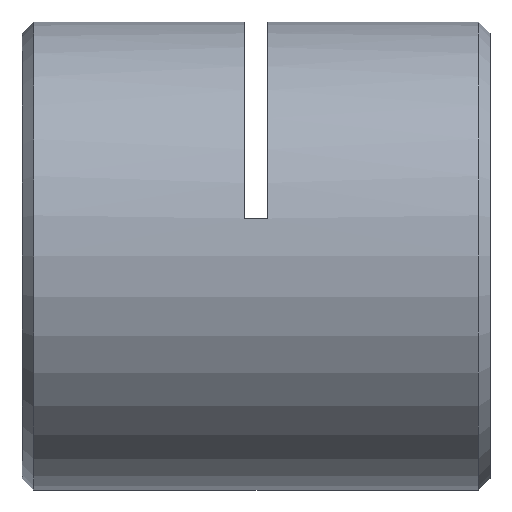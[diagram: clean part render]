
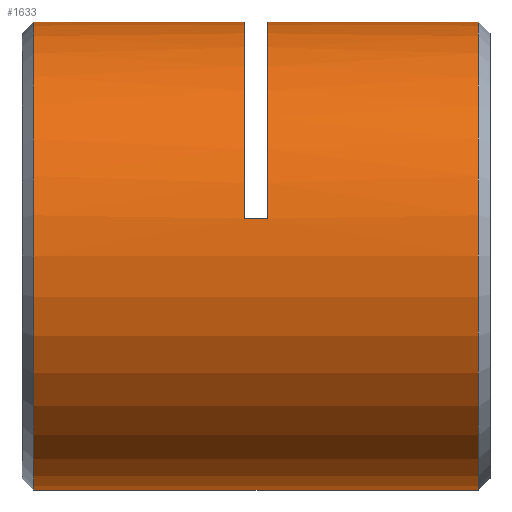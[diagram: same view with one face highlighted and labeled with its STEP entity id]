
A CAD part, left-side view. The second image highlights one B-rep face of the part: STEP entity #1633.
In plain terms, the highlighted cylindrical face has radius 8 mm (diameter 16 mm), a partial arc.
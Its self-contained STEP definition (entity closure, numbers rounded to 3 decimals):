
#7 = DIRECTION ( 'NONE',  ( 0., 1., 0. ) ) ;
#79 = AXIS2_PLACEMENT_3D ( 'NONE', #2346, #519, #2319 ) ;
#91 = ORIENTED_EDGE ( 'NONE', *, *, #2320, .T. ) ;
#198 = EDGE_CURVE ( 'NONE', #3857, #2568, #3710, .T. ) ;
#425 = ORIENTED_EDGE ( 'NONE', *, *, #198, .T. ) ;
#457 = CIRCLE ( 'NONE', #2643, 8. ) ;
#459 = DIRECTION ( 'NONE',  ( 0., -1., 0. ) ) ;
#519 = DIRECTION ( 'NONE',  ( 0., 1., 0. ) ) ;
#529 = VECTOR ( 'NONE', #3157, 1000. ) ;
#549 = LINE ( 'NONE', #2115, #1072 ) ;
#584 = EDGE_CURVE ( 'NONE', #1469, #3376, #1103, .T. ) ;
#674 = CARTESIAN_POINT ( 'NONE',  ( 0., 0.25, 8. ) ) ;
#923 = AXIS2_PLACEMENT_3D ( 'NONE', #3105, #3703, #3746 ) ;
#946 = CARTESIAN_POINT ( 'NONE',  ( 0., 0.65, -8. ) ) ;
#1012 = VERTEX_POINT ( 'NONE', #3287 ) ;
#1072 = VECTOR ( 'NONE', #7, 1000. ) ;
#1103 = LINE ( 'NONE', #3749, #529 ) ;
#1261 = CIRCLE ( 'NONE', #923, 8. ) ;
#1280 = AXIS2_PLACEMENT_3D ( 'NONE', #1497, #3332, #2690 ) ;
#1342 = ORIENTED_EDGE ( 'NONE', *, *, #3225, .T. ) ;
#1366 = DIRECTION ( 'NONE',  ( 0., 1., 0. ) ) ;
#1402 = CARTESIAN_POINT ( 'NONE',  ( 0., 8.65, 8. ) ) ;
#1469 = VERTEX_POINT ( 'NONE', #2858 ) ;
#1497 = CARTESIAN_POINT ( 'NONE',  ( 0., 0.65, 0. ) ) ;
#1516 = VERTEX_POINT ( 'NONE', #1402 ) ;
#1633 = ADVANCED_FACE ( 'NONE', ( #2700 ), #3931, .T. ) ;
#1782 = VECTOR ( 'NONE', #3391, 1000. ) ;
#1811 = EDGE_LOOP ( 'NONE', ( #3670, #425, #1848, #2795, #2113, #2907, #1342, #91 ) ) ;
#1848 = ORIENTED_EDGE ( 'NONE', *, *, #2066, .T. ) ;
#1966 = CARTESIAN_POINT ( 'NONE',  ( -7.897, 8.65, 1.28 ) ) ;
#2016 = VERTEX_POINT ( 'NONE', #3330 ) ;
#2061 = VECTOR ( 'NONE', #2539, 1000. ) ;
#2066 = EDGE_CURVE ( 'NONE', #2568, #1012, #549, .T. ) ;
#2113 = ORIENTED_EDGE ( 'NONE', *, *, #584, .T. ) ;
#2115 = CARTESIAN_POINT ( 'NONE',  ( 0., 0.25, 8. ) ) ;
#2205 = LINE ( 'NONE', #674, #2061 ) ;
#2285 = CARTESIAN_POINT ( 'NONE',  ( 0., 15.85, 0. ) ) ;
#2314 = EDGE_CURVE ( 'NONE', #1469, #1012, #2515, .T. ) ;
#2319 = DIRECTION ( 'NONE',  ( 0., 0., 1. ) ) ;
#2320 = EDGE_CURVE ( 'NONE', #2016, #3902, #457, .T. ) ;
#2346 = CARTESIAN_POINT ( 'NONE',  ( 0., 0.25, 0. ) ) ;
#2421 = CARTESIAN_POINT ( 'NONE',  ( 0., 0.25, -8. ) ) ;
#2515 = CIRCLE ( 'NONE', #2978, 8. ) ;
#2539 = DIRECTION ( 'NONE',  ( 0., 1., 0. ) ) ;
#2557 = CARTESIAN_POINT ( 'NONE',  ( 0., 7.85, 0. ) ) ;
#2568 = VERTEX_POINT ( 'NONE', #3901 ) ;
#2643 = AXIS2_PLACEMENT_3D ( 'NONE', #2285, #459, #3483 ) ;
#2690 = DIRECTION ( 'NONE',  ( 0., 0., 1. ) ) ;
#2700 = FACE_OUTER_BOUND ( 'NONE', #1811, .T. ) ;
#2729 = LINE ( 'NONE', #2421, #1782 ) ;
#2795 = ORIENTED_EDGE ( 'NONE', *, *, #2314, .F. ) ;
#2858 = CARTESIAN_POINT ( 'NONE',  ( -7.897, 7.85, 1.28 ) ) ;
#2907 = ORIENTED_EDGE ( 'NONE', *, *, #3290, .T. ) ;
#2978 = AXIS2_PLACEMENT_3D ( 'NONE', #2557, #1366, #3185 ) ;
#3105 = CARTESIAN_POINT ( 'NONE',  ( 0., 8.65, 0. ) ) ;
#3157 = DIRECTION ( 'NONE',  ( 0., 1., 0. ) ) ;
#3185 = DIRECTION ( 'NONE',  ( 0., 0., 1. ) ) ;
#3225 = EDGE_CURVE ( 'NONE', #1516, #2016, #2205, .T. ) ;
#3287 = CARTESIAN_POINT ( 'NONE',  ( 0., 7.85, 8. ) ) ;
#3290 = EDGE_CURVE ( 'NONE', #3376, #1516, #1261, .T. ) ;
#3330 = CARTESIAN_POINT ( 'NONE',  ( 0., 15.85, 8. ) ) ;
#3332 = DIRECTION ( 'NONE',  ( 0., 1., 0. ) ) ;
#3376 = VERTEX_POINT ( 'NONE', #1966 ) ;
#3391 = DIRECTION ( 'NONE',  ( 0., 1., 0. ) ) ;
#3483 = DIRECTION ( 'NONE',  ( 0., 0., -1. ) ) ;
#3670 = ORIENTED_EDGE ( 'NONE', *, *, #3817, .F. ) ;
#3678 = CARTESIAN_POINT ( 'NONE',  ( 0., 15.85, -8. ) ) ;
#3703 = DIRECTION ( 'NONE',  ( 0., 1., 0. ) ) ;
#3710 = CIRCLE ( 'NONE', #1280, 8. ) ;
#3746 = DIRECTION ( 'NONE',  ( 0., 0., 1. ) ) ;
#3749 = CARTESIAN_POINT ( 'NONE',  ( -7.897, 8.25, 1.28 ) ) ;
#3817 = EDGE_CURVE ( 'NONE', #3857, #3902, #2729, .T. ) ;
#3857 = VERTEX_POINT ( 'NONE', #946 ) ;
#3901 = CARTESIAN_POINT ( 'NONE',  ( 0., 0.65, 8. ) ) ;
#3902 = VERTEX_POINT ( 'NONE', #3678 ) ;
#3931 = CYLINDRICAL_SURFACE ( 'NONE', #79, 8. ) ;
